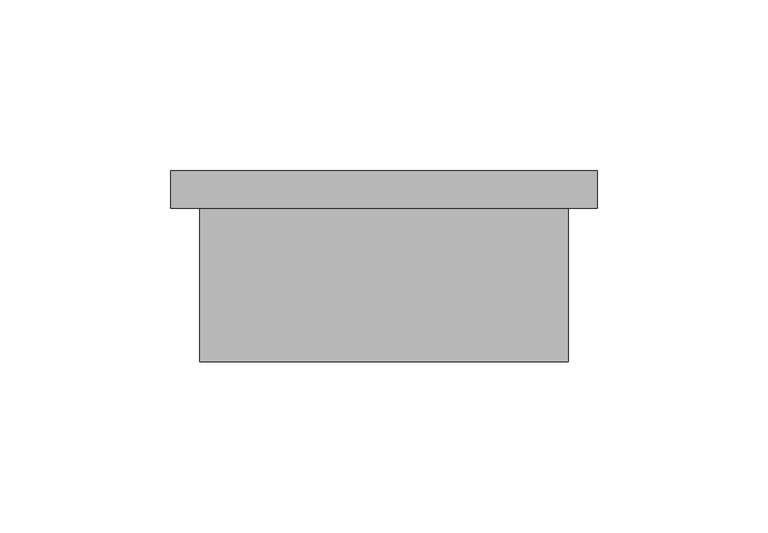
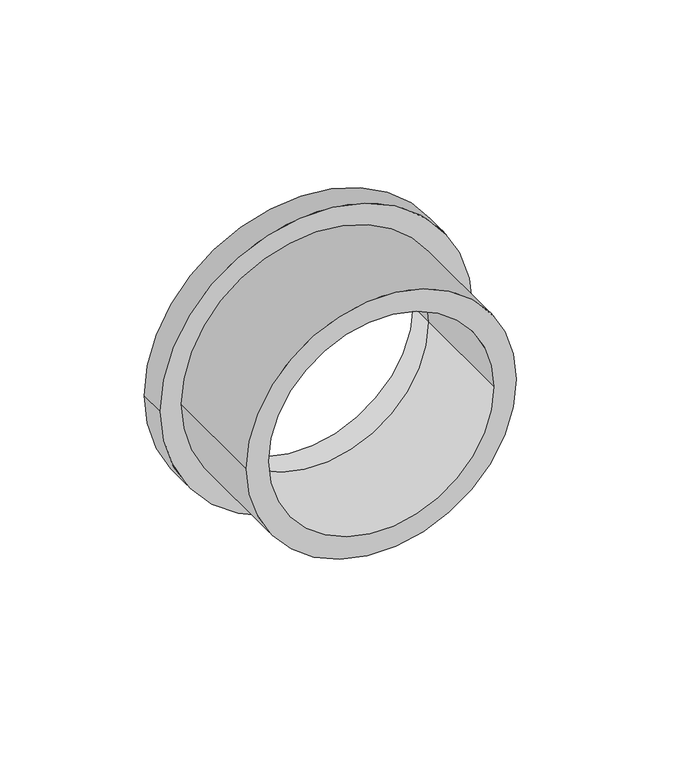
"""IFC4 building model written with IfcOpenShell, lengths in millimetres: pipe fitting geometry, 01051020 : Manguitos porta brida."""

from ifc_helpers import new_model, si_unit, point, frame, origin, origin_2d, place, context, project, spatial, circle_curve, trimmed, segment, composite_curve, outline, extrude, source, transform, mapped, element, save


def pipe_fitting_eda63f39(model_context):
    return source(origin(), model_context, "Body", "SweptSolid", [
        extrude(outline(composite_curve([segment(trimmed(circle_curve(origin_2d(), 54.0), [point((0.0, -54.0))], [point((0.0, 54.0))], False, "CARTESIAN"), True, "CONTINUOUS"), segment(trimmed(circle_curve(origin_2d(), 54.0), [point((0.0, 54.0))], [point((0.0, -54.0))], False, "CARTESIAN"), True, "CONTINUOUS")], self_intersect=False), holes=[composite_curve([segment(trimmed(circle_curve(origin_2d(), 45.0), [point((0.0, -45.0))], [point((0.0, 45.0))], True, "CARTESIAN"), True, "CONTINUOUS"), segment(trimmed(circle_curve(origin_2d(), 45.0), [point((0.0, 45.0))], [point((0.0, -45.0))], True, "CARTESIAN"), True, "CONTINUOUS")], self_intersect=False)]), frame((0.0, -45.0, 0.0), z_axis=(0.0, 1.0, 0.0), x_axis=(0.0, 0.0, 1.0)), (0.0, 0.0, 1.0), 45.0),
        extrude(outline(composite_curve([segment(trimmed(circle_curve(origin_2d(), 62.5), [point((0.0, -62.5))], [point((0.0, 62.5))], False, "CARTESIAN"), True, "CONTINUOUS"), segment(trimmed(circle_curve(origin_2d(), 62.5), [point((0.0, 62.5))], [point((0.0, -62.5))], False, "CARTESIAN"), True, "CONTINUOUS")], self_intersect=False), holes=[composite_curve([segment(trimmed(circle_curve(origin_2d(), 45.0), [point((0.0, -45.0))], [point((0.0, 45.0))], True, "CARTESIAN"), True, "CONTINUOUS"), segment(trimmed(circle_curve(origin_2d(), 45.0), [point((0.0, 45.0))], [point((0.0, -45.0))], True, "CARTESIAN"), True, "CONTINUOUS")], self_intersect=False)]), frame((0.0, 0.0, 0.0), z_axis=(0.0, 1.0, 0.0), x_axis=(0.0, 0.0, 1.0)), (0.0, 0.0, 1.0), 11.0),
    ])


if __name__ == "__main__":
    model = new_model("IFC4")
    model_context = context("Model", 3, world=origin())
    ifc_project = project(units=[si_unit("LENGTHUNIT", "METRE", prefix="MILLI")], contexts=[model_context])
    site = spatial("IfcSite", under=ifc_project)
    building = spatial("IfcBuilding", under=site)
    placement = place(None, origin())
    pipe_fitting_shape = pipe_fitting_eda63f39(model_context)
    element("IfcPipeFitting", 1, ObjectType="01051020 : Manguitos porta brida", at=placement, inside=building, context=model_context, shape_type="MappedRepresentation", body=[
        mapped(pipe_fitting_shape, transform((0.0, 0.0, 0.0), x_axis=(1.0, 0.0, 0.0), y_axis=(0.0, 1.0, 0.0), z_axis=(0.0, 0.0, 1.0))),
    ])
    save(model, "model.ifc")
